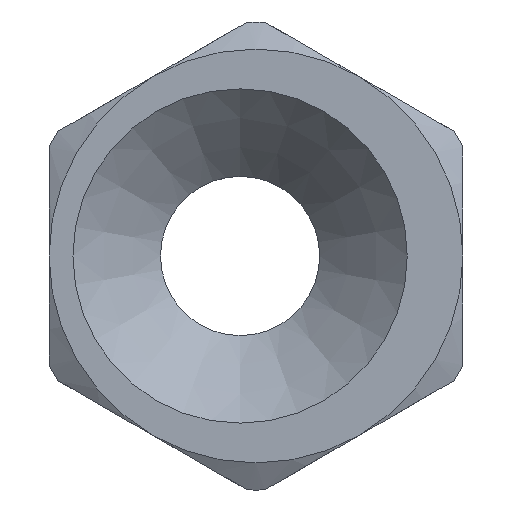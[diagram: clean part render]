
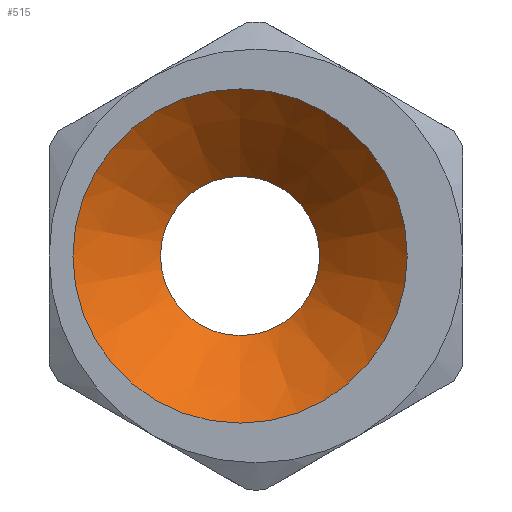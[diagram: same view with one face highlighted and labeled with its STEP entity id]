
A CAD part, left-side view. The second image highlights one B-rep face of the part: STEP entity #515.
In plain terms, the highlighted conical face has half-angle 45 degrees and reference radius 5.25 mm.
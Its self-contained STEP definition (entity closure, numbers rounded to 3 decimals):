
#56=CONICAL_SURFACE('',#590,5.25,0.785);
#72=CIRCLE('',#538,2.5);
#97=CIRCLE('',#588,5.25);
#236=ORIENTED_EDGE('',*,*,#256,.T.);
#237=ORIENTED_EDGE('',*,*,#319,.F.);
#256=EDGE_CURVE('',#328,#328,#72,.T.);
#319=EDGE_CURVE('',#365,#365,#97,.T.);
#328=VERTEX_POINT('',#762);
#365=VERTEX_POINT('',#959);
#438=EDGE_LOOP('',(#236));
#439=EDGE_LOOP('',(#237));
#474=FACE_BOUND('',#438,.T.);
#475=FACE_BOUND('',#439,.T.);
#515=ADVANCED_FACE('',(#474,#475),#56,.F.);
#538=AXIS2_PLACEMENT_3D('',#761,#615,#616);
#588=AXIS2_PLACEMENT_3D('',#958,#729,#730);
#590=AXIS2_PLACEMENT_3D('',#961,#733,#734);
#615=DIRECTION('',(1.,0.,0.));
#616=DIRECTION('',(0.,0.,-1.));
#729=DIRECTION('',(1.,0.,0.));
#730=DIRECTION('',(0.,0.,-1.));
#733=DIRECTION('',(-1.,0.,0.));
#734=DIRECTION('',(0.,0.,1.));
#761=CARTESIAN_POINT('',(2.75,0.5,0.));
#762=CARTESIAN_POINT('',(2.75,0.5,-2.5));
#958=CARTESIAN_POINT('',(0.,0.5,0.));
#959=CARTESIAN_POINT('',(0.,0.5,-5.25));
#961=CARTESIAN_POINT('',(0.,0.5,0.));
